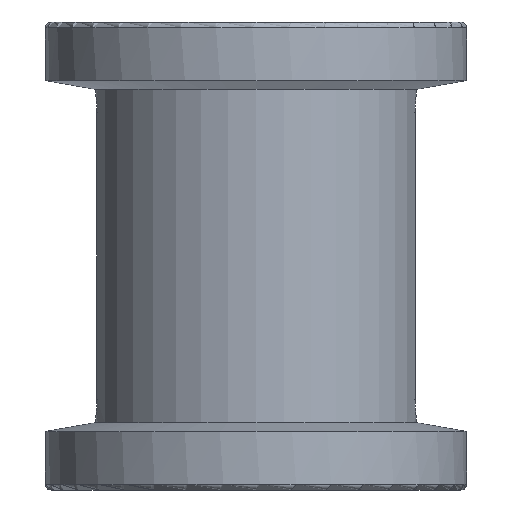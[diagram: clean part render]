
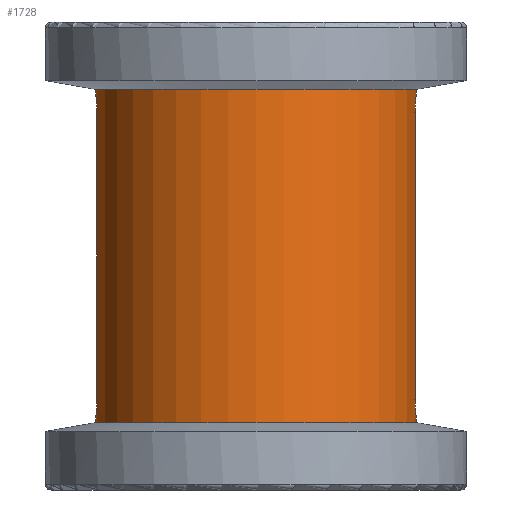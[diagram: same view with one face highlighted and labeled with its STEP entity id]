
A CAD part, left-side view. The second image highlights one B-rep face of the part: STEP entity #1728.
In plain terms, the highlighted cylindrical face has radius 2.75 mm (diameter 5.5 mm), a partial arc.
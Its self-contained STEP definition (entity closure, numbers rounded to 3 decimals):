
#77=CIRCLE('',#1848,2.75);
#78=CIRCLE('',#1849,2.75);
#177=LINE('',#2587,#313);
#178=LINE('',#2601,#314);
#313=VECTOR('',#2049,1000.);
#314=VECTOR('',#2052,1000.);
#449=ORIENTED_EDGE('',*,*,#985,.T.);
#450=ORIENTED_EDGE('',*,*,#986,.T.);
#451=ORIENTED_EDGE('',*,*,#987,.T.);
#452=ORIENTED_EDGE('',*,*,#988,.F.);
#453=ORIENTED_EDGE('',*,*,#989,.T.);
#454=ORIENTED_EDGE('',*,*,#990,.T.);
#455=ORIENTED_EDGE('',*,*,#991,.T.);
#456=ORIENTED_EDGE('',*,*,#992,.T.);
#985=EDGE_CURVE('',#1253,#1254,#1419,.T.);
#986=EDGE_CURVE('',#1254,#1255,#177,.T.);
#987=EDGE_CURVE('',#1255,#1256,#1420,.T.);
#988=EDGE_CURVE('',#1257,#1256,#77,.T.);
#989=EDGE_CURVE('',#1257,#1258,#1421,.T.);
#990=EDGE_CURVE('',#1258,#1259,#178,.F.);
#991=EDGE_CURVE('',#1259,#1260,#1422,.T.);
#992=EDGE_CURVE('',#1260,#1253,#78,.T.);
#1253=VERTEX_POINT('',#2585);
#1254=VERTEX_POINT('',#2586);
#1255=VERTEX_POINT('',#2588);
#1256=VERTEX_POINT('',#2593);
#1257=VERTEX_POINT('',#2595);
#1258=VERTEX_POINT('',#2600);
#1259=VERTEX_POINT('',#2602);
#1260=VERTEX_POINT('',#2607);
#1419=B_SPLINE_CURVE_WITH_KNOTS('',3,(#2581,#2582,#2583,#2584),
 .UNSPECIFIED.,.F.,.F.,(4,4),(0.001,0.001),
 .UNSPECIFIED.);
#1420=B_SPLINE_CURVE_WITH_KNOTS('',3,(#2589,#2590,#2591,#2592),
 .UNSPECIFIED.,.F.,.F.,(4,4),(0.,0.001),
 .UNSPECIFIED.);
#1421=B_SPLINE_CURVE_WITH_KNOTS('',3,(#2596,#2597,#2598,#2599),
 .UNSPECIFIED.,.F.,.F.,(4,4),(0.001,0.001),
 .UNSPECIFIED.);
#1422=B_SPLINE_CURVE_WITH_KNOTS('',3,(#2603,#2604,#2605,#2606),
 .UNSPECIFIED.,.F.,.F.,(4,4),(0.,0.001),
 .UNSPECIFIED.);
#1451=EDGE_LOOP('',(#449,#450,#451,#452,#453,#454,#455,#456));
#1565=FACE_BOUND('',#1451,.T.);
#1679=CYLINDRICAL_SURFACE('',#1847,2.75);
#1728=ADVANCED_FACE('',(#1565),#1679,.T.);
#1847=AXIS2_PLACEMENT_3D('',#2580,#2047,#2048);
#1848=AXIS2_PLACEMENT_3D('',#2594,#2050,#2051);
#1849=AXIS2_PLACEMENT_3D('',#2608,#2053,#2054);
#2047=DIRECTION('',(0.,0.,1.));
#2048=DIRECTION('',(1.,0.,0.));
#2049=DIRECTION('',(0.,0.,1.));
#2050=DIRECTION('',(0.,0.,1.));
#2051=DIRECTION('',(1.,0.,0.));
#2052=DIRECTION('',(0.,0.,1.));
#2053=DIRECTION('',(0.,0.,1.));
#2054=DIRECTION('',(1.,0.,0.));
#2580=CARTESIAN_POINT('',(-8.,0.,-57.));
#2581=CARTESIAN_POINT('',(-8.,-2.75,-2.85));
#2582=CARTESIAN_POINT('',(-8.209,-2.75,-2.85));
#2583=CARTESIAN_POINT('',(-8.4,-2.721,-2.662));
#2584=CARTESIAN_POINT('',(-8.4,-2.721,-2.45));
#2585=CARTESIAN_POINT('',(-8.,-2.75,-2.85));
#2586=CARTESIAN_POINT('',(-8.4,-2.721,-2.45));
#2587=CARTESIAN_POINT('',(-8.4,-2.721,-57.));
#2588=CARTESIAN_POINT('',(-8.4,-2.721,2.45));
#2589=CARTESIAN_POINT('',(-8.4,-2.721,2.45));
#2590=CARTESIAN_POINT('',(-8.4,-2.721,2.662));
#2591=CARTESIAN_POINT('',(-8.209,-2.75,2.85));
#2592=CARTESIAN_POINT('',(-8.,-2.75,2.85));
#2593=CARTESIAN_POINT('',(-8.,-2.75,2.85));
#2594=CARTESIAN_POINT('',(-8.,0.,2.85));
#2595=CARTESIAN_POINT('',(-8.,2.75,2.85));
#2596=CARTESIAN_POINT('',(-8.,2.75,2.85));
#2597=CARTESIAN_POINT('',(-8.209,2.75,2.85));
#2598=CARTESIAN_POINT('',(-8.4,2.721,2.662));
#2599=CARTESIAN_POINT('',(-8.4,2.721,2.45));
#2600=CARTESIAN_POINT('',(-8.4,2.721,2.45));
#2601=CARTESIAN_POINT('',(-8.4,2.721,-57.));
#2602=CARTESIAN_POINT('',(-8.4,2.721,-2.45));
#2603=CARTESIAN_POINT('',(-8.4,2.721,-2.45));
#2604=CARTESIAN_POINT('',(-8.4,2.721,-2.662));
#2605=CARTESIAN_POINT('',(-8.209,2.75,-2.85));
#2606=CARTESIAN_POINT('',(-8.,2.75,-2.85));
#2607=CARTESIAN_POINT('',(-8.,2.75,-2.85));
#2608=CARTESIAN_POINT('',(-8.,0.,-2.85));
